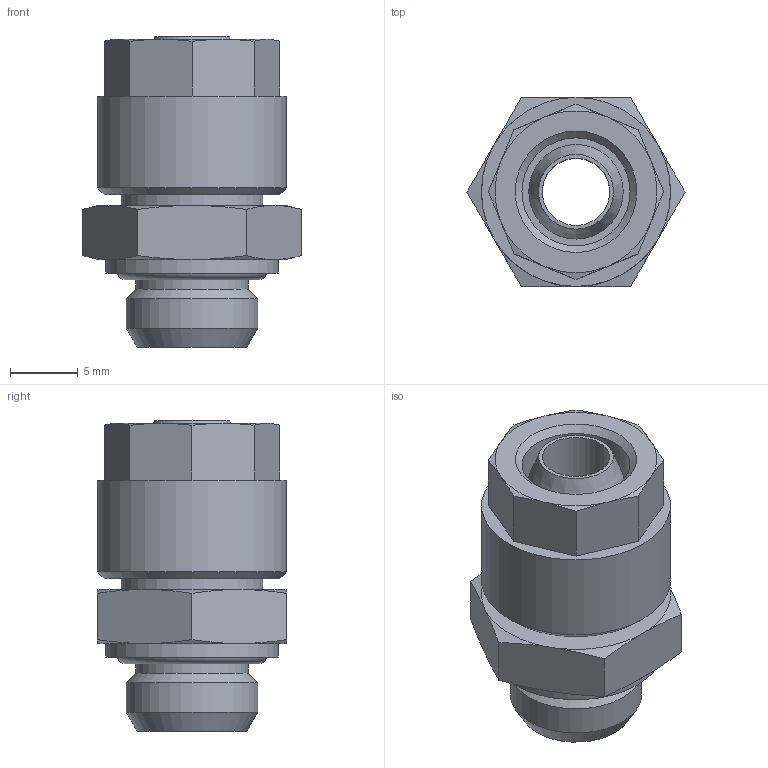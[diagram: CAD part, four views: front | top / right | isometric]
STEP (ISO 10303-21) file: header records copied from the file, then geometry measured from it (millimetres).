
FILE_DESCRIPTION(/* description */ (''),/* implementation_level */ '2;1');
FILE_NAME(/* name */ '10212_301Z_86_18_10.09.15',/* time_stamp */ '2015-09-10T08:58:43+02:00',/* author */ (''),/* organization */ (''),/* preprocessor_version */ 'ST-DEVELOPER v14',/* originating_system */ 'HiCAD 2013 1802.4 Build 509',/* authorisation */ '');
FILE_SCHEMA (('AUTOMOTIVE_DESIGN { 1 0 10303 214 1 1 1 1 }'));
Length unit declared in the file: millimetre
Products named in the file (4): Root; 17006; OR 7X1.5; 10212-1
Assembly tree (3 placements, depth 2):
  Root
    17006
    OR 7X1.5
    10212-1
Bounding box: 16.17 x 14 x 23 mm (x, y, z)
Volume: 2386.6 mm3; surface area: 2624.2 mm2
Topology: 3 solids, 3 shells, 71 faces, 157 edges, 99 vertices
Faces by surface type: cone 31, plane 26, cylinder 10, torus 4
Full cylindrical faces by diameter (mm): 5 x1, 6.5 x1, 8 x1, 8.3 x1, 9.728 x1, 10.5 x1, 10.773 x1, 12 x1, 12.8 x1, 14 x1
Entity records: 3083 total; most frequent: DIRECTION 370, CARTESIAN_POINT 288, PRESENTATION_STYLE_ASSIGNMENT 247, COLOUR_RGB 246, DRAUGHTING_PRE_DEFINED_CURVE_FONT 244, CURVE_STYLE 244, OVER_RIDING_STYLED_ITEM 244, ORIENTED_EDGE 244
